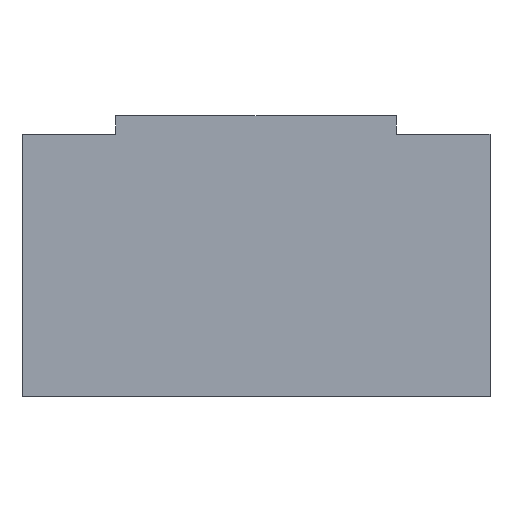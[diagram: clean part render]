
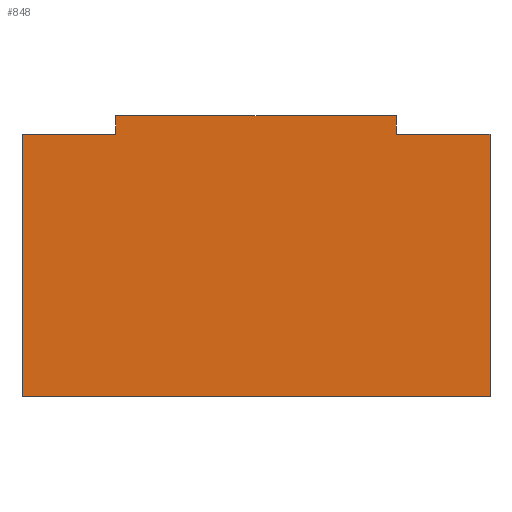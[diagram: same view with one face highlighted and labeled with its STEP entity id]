
A CAD part, left-side view. The second image highlights one B-rep face of the part: STEP entity #848.
In plain terms, the highlighted planar face has unit normal (-1, 0, 0).
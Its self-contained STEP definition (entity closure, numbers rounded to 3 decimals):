
#77 = DIRECTION ( 'NONE',  ( 1., 0., 0. ) ) ;
#88 = VERTEX_POINT ( 'NONE', #1076 ) ;
#115 = LINE ( 'NONE', #1111, #728 ) ;
#222 = DIRECTION ( 'NONE',  ( 0., -1., 0. ) ) ;
#367 = EDGE_CURVE ( 'NONE', #1400, #1685, #115, .T. ) ;
#460 = PLANE ( 'NONE',  #2452 ) ;
#465 = EDGE_CURVE ( 'NONE', #636, #1909, #1487, .T. ) ;
#484 = DIRECTION ( 'NONE',  ( 0., 0., -1. ) ) ;
#530 = CARTESIAN_POINT ( 'NONE',  ( -88., 15., 30. ) ) ;
#532 = CARTESIAN_POINT ( 'NONE',  ( -88., 15., 28. ) ) ;
#543 = ORIENTED_EDGE ( 'NONE', *, *, #2276, .T. ) ;
#545 = CARTESIAN_POINT ( 'NONE',  ( -88., -15., 28. ) ) ;
#636 = VERTEX_POINT ( 'NONE', #1581 ) ;
#681 = CARTESIAN_POINT ( 'NONE',  ( -88., -15., 28. ) ) ;
#728 = VECTOR ( 'NONE', #484, 1000. ) ;
#749 = LINE ( 'NONE', #1486, #2110 ) ;
#829 = LINE ( 'NONE', #1449, #1259 ) ;
#848 = ADVANCED_FACE ( 'NONE', ( #1962 ), #460, .F. ) ;
#881 = CARTESIAN_POINT ( 'NONE',  ( -88., 25., 30. ) ) ;
#885 = CARTESIAN_POINT ( 'NONE',  ( -88., -25., 30. ) ) ;
#1006 = ORIENTED_EDGE ( 'NONE', *, *, #367, .F. ) ;
#1008 = LINE ( 'NONE', #881, #2013 ) ;
#1012 = DIRECTION ( 'NONE',  ( 0., -1., 0. ) ) ;
#1076 = CARTESIAN_POINT ( 'NONE',  ( -88., 25., 28. ) ) ;
#1111 = CARTESIAN_POINT ( 'NONE',  ( -88., -25., 30. ) ) ;
#1180 = CARTESIAN_POINT ( 'NONE',  ( -88., -25., 28. ) ) ;
#1201 = VECTOR ( 'NONE', #2516, 1000. ) ;
#1259 = VECTOR ( 'NONE', #222, 1000. ) ;
#1276 = DIRECTION ( 'NONE',  ( 0., 0., -1. ) ) ;
#1279 = EDGE_CURVE ( 'NONE', #2169, #1400, #2078, .T. ) ;
#1282 = ORIENTED_EDGE ( 'NONE', *, *, #1279, .F. ) ;
#1330 = DIRECTION ( 'NONE',  ( 0., 0., 1. ) ) ;
#1334 = CARTESIAN_POINT ( 'NONE',  ( -88., 25., 0. ) ) ;
#1355 = VECTOR ( 'NONE', #1012, 1000. ) ;
#1400 = VERTEX_POINT ( 'NONE', #1180 ) ;
#1449 = CARTESIAN_POINT ( 'NONE',  ( -88., -25., 0. ) ) ;
#1486 = CARTESIAN_POINT ( 'NONE',  ( -88., 40.483, 28. ) ) ;
#1487 = LINE ( 'NONE', #532, #1965 ) ;
#1537 = DIRECTION ( 'NONE',  ( 0., -1., 0. ) ) ;
#1581 = CARTESIAN_POINT ( 'NONE',  ( -88., 15., 28. ) ) ;
#1619 = EDGE_CURVE ( 'NONE', #88, #636, #749, .T. ) ;
#1685 = VERTEX_POINT ( 'NONE', #2283 ) ;
#1711 = ORIENTED_EDGE ( 'NONE', *, *, #1619, .F. ) ;
#1751 = VERTEX_POINT ( 'NONE', #1334 ) ;
#1818 = EDGE_LOOP ( 'NONE', ( #1006, #1282, #2320, #1863, #1828, #1711, #543, #1837 ) ) ;
#1828 = ORIENTED_EDGE ( 'NONE', *, *, #465, .F. ) ;
#1837 = ORIENTED_EDGE ( 'NONE', *, *, #2480, .T. ) ;
#1863 = ORIENTED_EDGE ( 'NONE', *, *, #2102, .F. ) ;
#1877 = DIRECTION ( 'NONE',  ( 0., 0., -1. ) ) ;
#1889 = DIRECTION ( 'NONE',  ( 0., -1., 0. ) ) ;
#1909 = VERTEX_POINT ( 'NONE', #530 ) ;
#1962 = FACE_OUTER_BOUND ( 'NONE', #1818, .T. ) ;
#1965 = VECTOR ( 'NONE', #1330, 1000. ) ;
#2013 = VECTOR ( 'NONE', #1276, 1000. ) ;
#2078 = LINE ( 'NONE', #545, #2630 ) ;
#2102 = EDGE_CURVE ( 'NONE', #1909, #2281, #2233, .T. ) ;
#2110 = VECTOR ( 'NONE', #1889, 1000. ) ;
#2169 = VERTEX_POINT ( 'NONE', #2467 ) ;
#2176 = LINE ( 'NONE', #681, #1201 ) ;
#2233 = LINE ( 'NONE', #2395, #1355 ) ;
#2276 = EDGE_CURVE ( 'NONE', #88, #1751, #1008, .T. ) ;
#2281 = VERTEX_POINT ( 'NONE', #2288 ) ;
#2283 = CARTESIAN_POINT ( 'NONE',  ( -88., -25., 0. ) ) ;
#2288 = CARTESIAN_POINT ( 'NONE',  ( -88., -15., 30. ) ) ;
#2296 = EDGE_CURVE ( 'NONE', #2281, #2169, #2176, .T. ) ;
#2320 = ORIENTED_EDGE ( 'NONE', *, *, #2296, .F. ) ;
#2395 = CARTESIAN_POINT ( 'NONE',  ( -88., -25., 30. ) ) ;
#2452 = AXIS2_PLACEMENT_3D ( 'NONE', #885, #77, #1877 ) ;
#2467 = CARTESIAN_POINT ( 'NONE',  ( -88., -15., 28. ) ) ;
#2480 = EDGE_CURVE ( 'NONE', #1751, #1685, #829, .T. ) ;
#2516 = DIRECTION ( 'NONE',  ( 0., 0., -1. ) ) ;
#2630 = VECTOR ( 'NONE', #1537, 1000. ) ;
